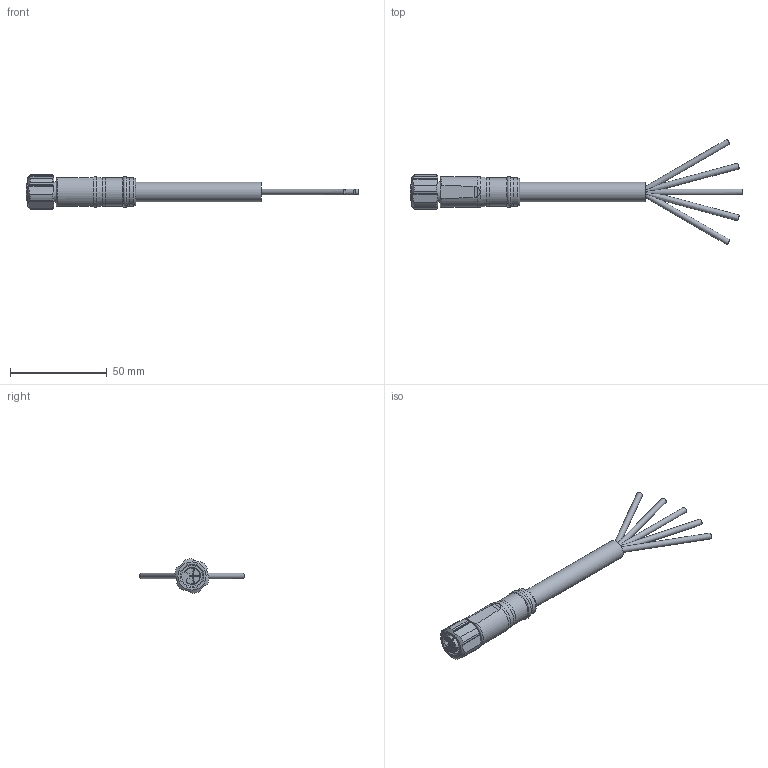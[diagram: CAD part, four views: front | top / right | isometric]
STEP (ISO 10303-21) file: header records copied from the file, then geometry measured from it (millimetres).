
FILE_DESCRIPTION(/* description */ ('STEP AP203'),/* implementation_level */ '2;1');
FILE_NAME(/* name */ 'P_MZ_SUV_0718',/* time_stamp */ '2023-02-07T13:25:35+01:00',/* author */ ('License CC BY-ND 4.0'),/* organization */ ('CADENAS'),/* preprocessor_version */ 'ST-DEVELOPER v18.102',/* originating_system */ 'PARTsolutions',/* authorisation */ ' ');
FILE_SCHEMA (('CONFIG_CONTROL_DESIGN'));
Length unit declared in the file: millimetre
Products named in the file (1): P_MZ_SUV_0718
Bounding box: 171.6 x 54.6 x 17.99 mm (x, y, z)
Volume: 17299.9 mm3; surface area: 8165.1 mm2
Topology: 1 solids, 1 shells, 93 faces, 246 edges, 161 vertices
Faces by surface type: plane 51, cylinder 27, torus 11, cone 4
Full cylindrical faces by diameter (mm): 3 x5, 10.1 x1, 10.85 x1, 10.917 x1, 14.5 x2
Entity records: 3462 total; most frequent: CARTESIAN_POINT 695, ORIENTED_EDGE 432, DIRECTION 404, EDGE_CURVE 216, AXIS2_PLACEMENT_3D 162, VERTEX_POINT 152, EDGE_LOOP 120, FACE_BOUND 120
